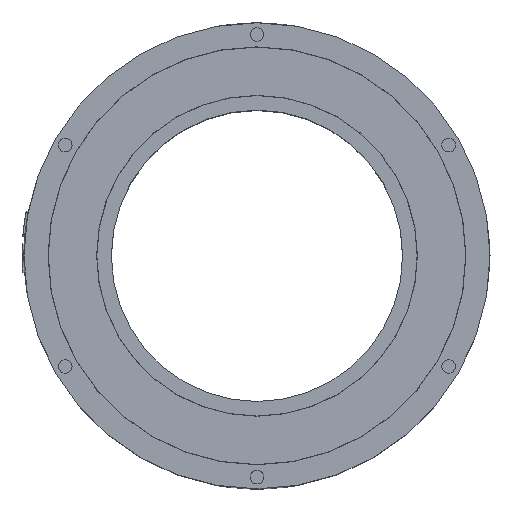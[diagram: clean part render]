
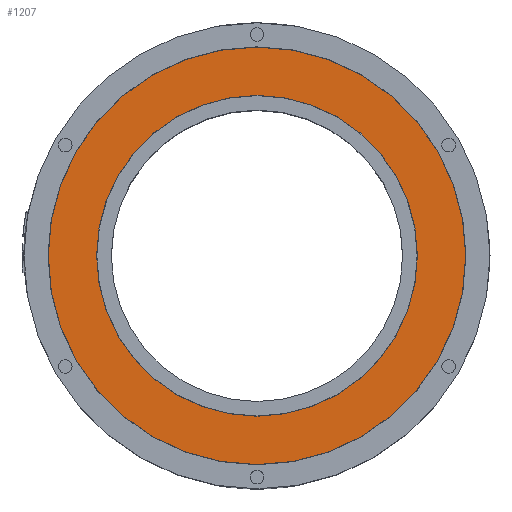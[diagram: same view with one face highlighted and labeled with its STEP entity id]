
A CAD part, top view. The second image highlights one B-rep face of the part: STEP entity #1207.
In plain terms, the highlighted planar face has unit normal (0, 0, 1).
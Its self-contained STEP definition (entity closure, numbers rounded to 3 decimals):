
#270=FACE_BOUND('',#2288,.T.);
#271=FACE_BOUND('',#2289,.T.);
#428=CIRCLE('',#6768,107.5);
#431=CIRCLE('',#6773,82.6);
#751=PLANE('',#6776);
#1207=ADVANCED_FACE('',(#270,#271),#751,.T.);
#2288=EDGE_LOOP('',(#3780));
#2289=EDGE_LOOP('',(#3781));
#3780=ORIENTED_EDGE('',*,*,#5626,.F.);
#3781=ORIENTED_EDGE('',*,*,#5623,.T.);
#4748=VERTEX_POINT('',#19913);
#4751=VERTEX_POINT('',#19921);
#5623=EDGE_CURVE('',#4748,#4748,#428,.T.);
#5626=EDGE_CURVE('',#4751,#4751,#431,.T.);
#6768=AXIS2_PLACEMENT_3D('',#19912,#7878,#7879);
#6773=AXIS2_PLACEMENT_3D('',#19920,#7888,#7889);
#6776=AXIS2_PLACEMENT_3D('',#19924,#7894,#7895);
#7878=DIRECTION('',(0.,0.,1.));
#7879=DIRECTION('',(1.,0.,0.));
#7888=DIRECTION('',(0.,0.,1.));
#7889=DIRECTION('',(-1.,0.,0.));
#7894=DIRECTION('',(0.,0.,1.));
#7895=DIRECTION('',(1.,0.,0.));
#19912=CARTESIAN_POINT('',(0.,0.,130.));
#19913=CARTESIAN_POINT('',(107.5,0.,130.));
#19920=CARTESIAN_POINT('',(0.,0.,130.));
#19921=CARTESIAN_POINT('',(-82.6,0.,130.));
#19924=CARTESIAN_POINT('',(0.,0.,130.));
